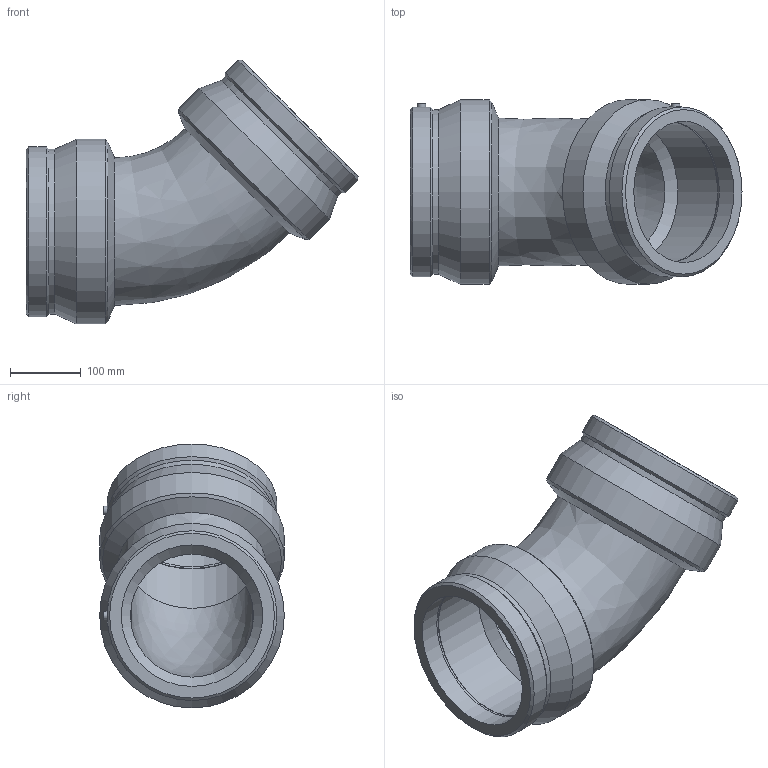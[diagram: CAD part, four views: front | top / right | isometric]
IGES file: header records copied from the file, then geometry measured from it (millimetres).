
Global section: file name: 490604200.ipt; native system: Autodesk Inventor 2015; preprocessor: unknown; author: KIM; date: 20171106.093659; units: millimetre
Bounding box: 469.45 x 261 x 373.19 mm (x, y, z)
Volume: 6357473.6 mm3; surface area: 646755 mm2
Topology: 1 solids, 1 shells, 42 faces, 98 edges, 64 vertices
Faces by surface type: revolution 12, cone 10, cylinder 10, plane 10
Full cylindrical faces by diameter (mm): 4.8 x2, 12 x2, 232.916 x2, 240.12 x2, 261 x2
